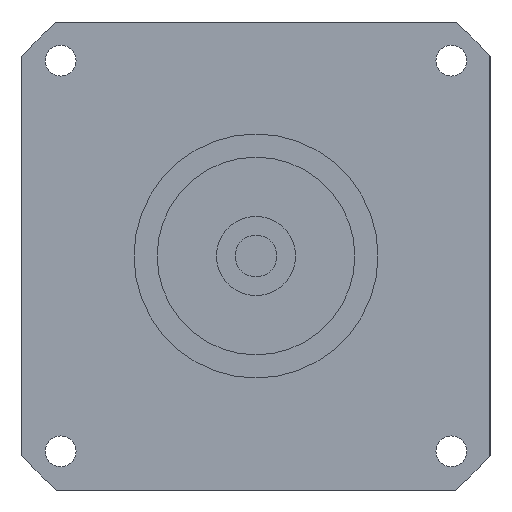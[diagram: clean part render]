
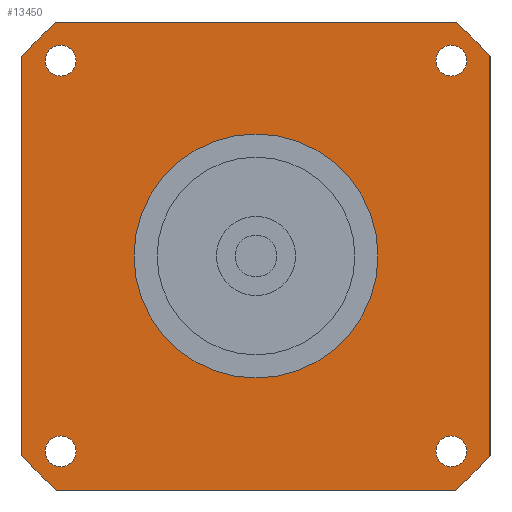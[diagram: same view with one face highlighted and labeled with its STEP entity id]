
A CAD part, left-side view. The second image highlights one B-rep face of the part: STEP entity #13450.
In plain terms, the highlighted planar face has unit normal (-1, 0, 0) as drawn and (0, 0, -1) by its records, which use the part's own axes.
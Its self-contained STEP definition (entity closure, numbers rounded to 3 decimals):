
#8640=CARTESIAN_POINT('',(-45.436,53.25,-41.2));
#8650=VERTEX_POINT('',#8640);
#8830=CARTESIAN_POINT('',(-53.25,45.436,-41.2));
#8840=VERTEX_POINT('',#8830);
#8870=CARTESIAN_POINT('',(0.,0.,
-41.2));
#8880=DIRECTION('',(0.,0.,-1.));
#8890=DIRECTION('',(1.,0.,0.));
#8900=AXIS2_PLACEMENT_3D('',#8870,#8880,#8890);
#8910=CIRCLE('',#8900,70.);
#8920=EDGE_CURVE('',#8840,#8650,#8910,.T.);
#9060=CARTESIAN_POINT('',(53.25,45.436,-41.2));
#9070=VERTEX_POINT('',#9060);
#9120=CARTESIAN_POINT('',(53.25,53.25,-41.2));
#9130=DIRECTION('',(0.,-1.,0.));
#9140=VECTOR('',#9130,1000.);
#9150=LINE('',#9120,#9140);
#9160=CARTESIAN_POINT('',(53.25,-45.436,-41.2));
#9170=VERTEX_POINT('',#9160);
#9180=EDGE_CURVE('',#9070,#9170,#9150,.T.);
#11970=CARTESIAN_POINT('',(-40.949,44.449,-41.2));
#11980=VERTEX_POINT('',#11970);
#12010=CARTESIAN_POINT('',(-44.449,44.449,-41.2));
#12020=DIRECTION('',(0.,0.,-1.));
#12030=DIRECTION('',(-1.,0.,0.));
#12040=AXIS2_PLACEMENT_3D('',#12010,#12020,#12030);
#12050=CIRCLE('',#12040,3.5);
#12060=CARTESIAN_POINT('',(-47.949,44.449,-41.2));
#12070=VERTEX_POINT('',#12060);
#12080=EDGE_CURVE('',#12070,#11980,#12050,.T.);
#12200=CARTESIAN_POINT('',(53.25,53.25,-41.2));
#12210=DIRECTION('',(0.,0.,-1.));
#12220=DIRECTION('',(1.,0.,0.));
#12230=AXIS2_PLACEMENT_3D('',#12200,#12210,#12220);
#12240=PLANE('',#12230);
#12250=ORIENTED_EDGE('',*,*,#12080,.F.);
#12260=EDGE_CURVE('',#11980,#12070,#12050,.T.);
#12270=ORIENTED_EDGE('',*,*,#12260,.F.);
#12280=EDGE_LOOP('',(#12270,#12250));
#12290=FACE_BOUND('',#12280,.T.);
#12300=CARTESIAN_POINT('',(44.449,44.449,-41.2));
#12310=DIRECTION('',(0.,0.,-1.));
#12320=DIRECTION('',(0.,1.,0.));
#12330=AXIS2_PLACEMENT_3D('',#12300,#12310,#12320);
#12340=CIRCLE('',#12330,3.5);
#12350=CARTESIAN_POINT('',(44.449,47.949,-41.2));
#12360=VERTEX_POINT('',#12350);
#12370=CARTESIAN_POINT('',(44.449,40.949,-41.2));
#12380=VERTEX_POINT('',#12370);
#12390=EDGE_CURVE('',#12360,#12380,#12340,.T.);
#12400=ORIENTED_EDGE('',*,*,#12390,.F.);
#12410=EDGE_CURVE('',#12380,#12360,#12340,.T.);
#12420=ORIENTED_EDGE('',*,*,#12410,.F.);
#12430=EDGE_LOOP('',(#12420,#12400));
#12440=FACE_BOUND('',#12430,.T.);
#12450=CARTESIAN_POINT('',(0.,0.,
-41.2));
#12460=DIRECTION('',(0.,0.,1.));
#12470=DIRECTION('',(0.,1.,0.));
#12480=AXIS2_PLACEMENT_3D('',#12450,#12460,#12470);
#12490=CIRCLE('',#12480,27.76);
#12500=CARTESIAN_POINT('',(-27.76,0.,-41.2));
#12510=VERTEX_POINT('',#12500);
#12520=CARTESIAN_POINT('',(27.76,0.,-41.2));
#12530=VERTEX_POINT('',#12520);
#12540=EDGE_CURVE('',#12510,#12530,#12490,.T.);
#12550=ORIENTED_EDGE('',*,*,#12540,.T.);
#12560=CARTESIAN_POINT('',(0.,27.76,-41.2));
#12570=VERTEX_POINT('',#12560);
#12580=EDGE_CURVE('',#12570,#12510,#12490,.T.);
#12590=ORIENTED_EDGE('',*,*,#12580,.T.);
#12600=EDGE_CURVE('',#12530,#12570,#12490,.T.);
#12610=ORIENTED_EDGE('',*,*,#12600,.T.);
#12620=EDGE_LOOP('',(#12610,#12590,#12550));
#12630=FACE_BOUND('',#12620,.T.);
#12640=CARTESIAN_POINT('',(44.449,-44.449,-41.2));
#12650=DIRECTION('',(0.,0.,-1.));
#12660=DIRECTION('',(1.,0.,0.));
#12670=AXIS2_PLACEMENT_3D('',#12640,#12650,#12660);
#12680=CIRCLE('',#12670,3.5);
#12690=CARTESIAN_POINT('',(47.949,-44.449,-41.2));
#12700=VERTEX_POINT('',#12690);
#12710=CARTESIAN_POINT('',(40.949,-44.449,-41.2));
#12720=VERTEX_POINT('',#12710);
#12730=EDGE_CURVE('',#12700,#12720,#12680,.T.);
#12740=ORIENTED_EDGE('',*,*,#12730,.F.);
#12750=EDGE_CURVE('',#12720,#12700,#12680,.T.);
#12760=ORIENTED_EDGE('',*,*,#12750,.F.);
#12770=EDGE_LOOP('',(#12760,#12740));
#12780=FACE_BOUND('',#12770,.T.);
#12790=CARTESIAN_POINT('',(-44.449,-44.449,-41.2));
#12800=DIRECTION('',(0.,0.,-1.));
#12810=DIRECTION('',(0.,-1.,0.));
#12820=AXIS2_PLACEMENT_3D('',#12790,#12800,#12810);
#12830=CIRCLE('',#12820,3.5);
#12840=CARTESIAN_POINT('',(-44.449,-47.949,-41.2));
#12850=VERTEX_POINT('',#12840);
#12860=CARTESIAN_POINT('',(-44.449,-40.949,-41.2));
#12870=VERTEX_POINT('',#12860);
#12880=EDGE_CURVE('',#12850,#12870,#12830,.T.);
#12890=ORIENTED_EDGE('',*,*,#12880,.F.);
#12900=EDGE_CURVE('',#12870,#12850,#12830,.T.);
#12910=ORIENTED_EDGE('',*,*,#12900,.F.);
#12920=EDGE_LOOP('',(#12910,#12890));
#12930=FACE_BOUND('',#12920,.T.);
#12940=CARTESIAN_POINT('',(-53.25,53.25,-41.2));
#12950=DIRECTION('',(1.,0.,0.));
#12960=VECTOR('',#12950,1000.);
#12970=LINE('',#12940,#12960);
#12980=CARTESIAN_POINT('',(45.436,53.25,-41.2));
#12990=VERTEX_POINT('',#12980);
#13000=EDGE_CURVE('',#8650,#12990,#12970,.T.);
#13010=ORIENTED_EDGE('',*,*,#13000,.T.);
#13020=ORIENTED_EDGE('',*,*,#8920,.T.);
#13030=CARTESIAN_POINT('',(-53.25,-53.25,-41.2));
#13040=DIRECTION('',(0.,1.,0.));
#13050=VECTOR('',#13040,1000.);
#13060=LINE('',#13030,#13050);
#13070=CARTESIAN_POINT('',(-53.25,-45.436,-41.2));
#13080=VERTEX_POINT('',#13070);
#13090=EDGE_CURVE('',#13080,#8840,#13060,.T.);
#13100=ORIENTED_EDGE('',*,*,#13090,.T.);
#13110=CARTESIAN_POINT('',(0.,0.,
-41.2));
#13120=DIRECTION('',(0.,0.,-1.));
#13130=DIRECTION('',(1.,0.,0.));
#13140=AXIS2_PLACEMENT_3D('',#13110,#13120,#13130);
#13150=CIRCLE('',#13140,70.);
#13160=CARTESIAN_POINT('',(-45.436,-53.25,-41.2));
#13170=VERTEX_POINT('',#13160);
#13180=EDGE_CURVE('',#13170,#13080,#13150,.T.);
#13190=ORIENTED_EDGE('',*,*,#13180,.T.);
#13200=CARTESIAN_POINT('',(53.25,-53.25,-41.2));
#13210=DIRECTION('',(-1.,0.,0.));
#13220=VECTOR('',#13210,1000.);
#13230=LINE('',#13200,#13220);
#13240=CARTESIAN_POINT('',(45.436,-53.25,-41.2));
#13250=VERTEX_POINT('',#13240);
#13260=EDGE_CURVE('',#13250,#13170,#13230,.T.);
#13270=ORIENTED_EDGE('',*,*,#13260,.T.);
#13280=CARTESIAN_POINT('',(0.,0.,
-41.2));
#13290=DIRECTION('',(0.,0.,-1.));
#13300=DIRECTION('',(1.,0.,0.));
#13310=AXIS2_PLACEMENT_3D('',#13280,#13290,#13300);
#13320=CIRCLE('',#13310,70.);
#13330=EDGE_CURVE('',#9170,#13250,#13320,.T.);
#13340=ORIENTED_EDGE('',*,*,#13330,.T.);
#13350=ORIENTED_EDGE('',*,*,#9180,.T.);
#13360=CARTESIAN_POINT('',(0.,0.,
-41.2));
#13370=DIRECTION('',(0.,0.,-1.));
#13380=DIRECTION('',(1.,0.,0.));
#13390=AXIS2_PLACEMENT_3D('',#13360,#13370,#13380);
#13400=CIRCLE('',#13390,70.);
#13410=EDGE_CURVE('',#12990,#9070,#13400,.T.);
#13420=ORIENTED_EDGE('',*,*,#13410,.T.);
#13430=EDGE_LOOP('',(#13420,#13350,#13340,#13270,#13190,#13100,#13020,
#13010));
#13440=FACE_OUTER_BOUND('',#13430,.T.);
#13450=ADVANCED_FACE('',(#12290,#12440,#12630,#12780,#12930,#13440),
#12240,.T.);
